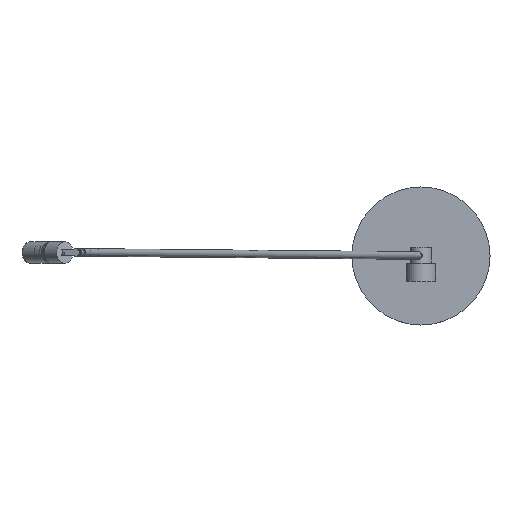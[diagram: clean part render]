
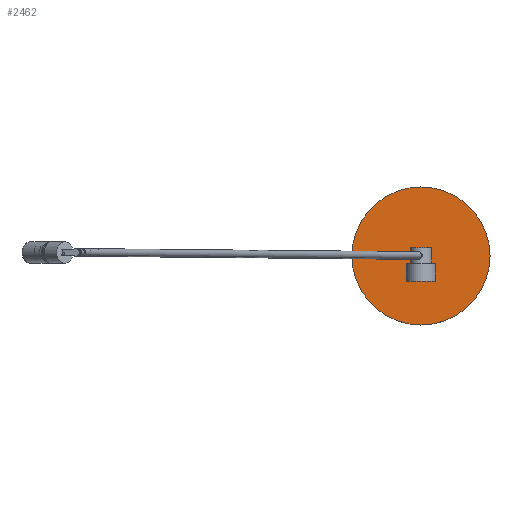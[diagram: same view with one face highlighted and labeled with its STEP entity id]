
A CAD part, top view. The second image highlights one B-rep face of the part: STEP entity #2462.
In plain terms, the highlighted planar face has unit normal (0, 0, 1).
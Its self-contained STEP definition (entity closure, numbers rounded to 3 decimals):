
#156=PLANE('',#2663);
#231=FACE_OUTER_BOUND('',#393,.T.);
#393=EDGE_LOOP('',(#1582));
#885=CIRCLE('',#2661,90.);
#1023=VERTEX_POINT('',#3718);
#1247=EDGE_CURVE('',#1023,#1023,#885,.T.);
#1582=ORIENTED_EDGE('',*,*,#1247,.F.);
#2462=ADVANCED_FACE('',(#231),#156,.F.);
#2661=AXIS2_PLACEMENT_3D('',#3719,#2969,#2970);
#2663=AXIS2_PLACEMENT_3D('',#3723,#2974,#2975);
#2969=DIRECTION('center_axis',(0.,0.,-1.));
#2970=DIRECTION('ref_axis',(-1.,0.,0.));
#2974=DIRECTION('center_axis',(0.,0.,-1.));
#2975=DIRECTION('ref_axis',(-1.,0.,0.));
#3718=CARTESIAN_POINT('',(90.,19.5,10.));
#3719=CARTESIAN_POINT('Origin',(0.,19.5,10.));
#3723=CARTESIAN_POINT('Origin',(0.,19.5,10.));
